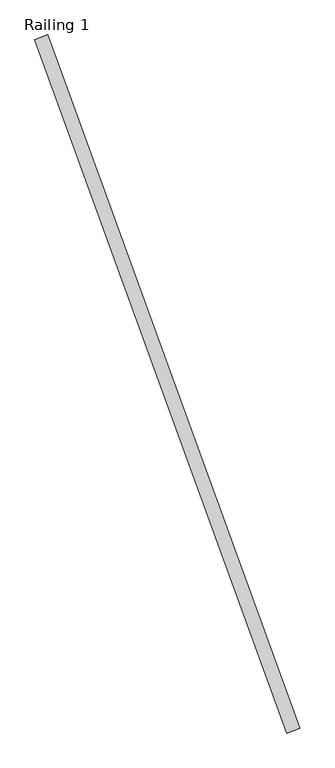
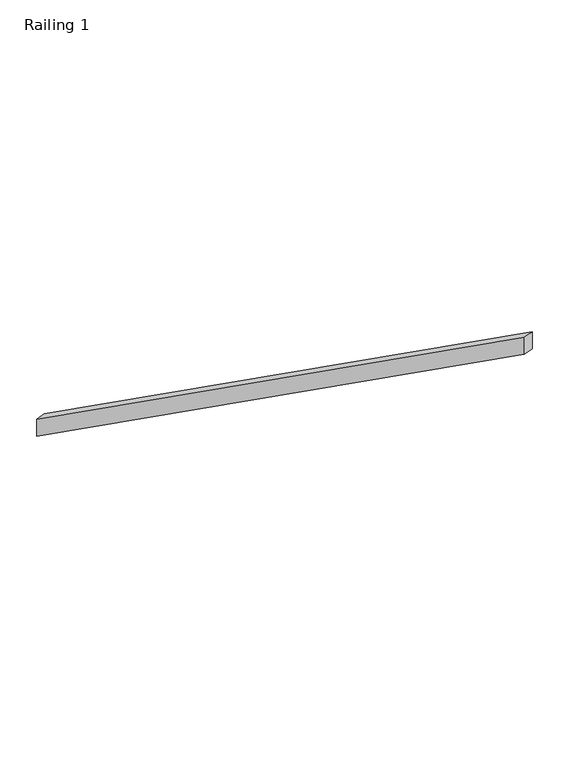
"""IFC4 building model written with IfcOpenShell, lengths in millimetres: railing geometry, Railing 1."""

from ifc_helpers import new_model, si_unit, frame, origin, place, context, project, spatial, polyline, outline, extrude, source, transform, mapped, element, save


def railing_1_8408d9b6(model_context):
    return source(origin(), model_context, "Body", "SweptSolid", [
        extrude(outline(polyline([(46.2741818, -76.2), (0.0, 0.0), (3217.3591655, 0.0), (3263.6333474, -76.2), (46.2741818, -76.2)])), frame((20032.689937, 27586.6778863, 3392.6680842), z_axis=(0.9396926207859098, 0.3420201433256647, 0.0), x_axis=(0.29233770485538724, -0.8031912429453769, 0.5190592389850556)), (0.0, 0.0, 1.0), 50.8),
    ])


if __name__ == "__main__":
    model = new_model("IFC4")
    model_context = context("Model", 3, world=origin())
    ifc_project = project(units=[si_unit("LENGTHUNIT", "METRE", prefix="MILLI")], contexts=[model_context])
    site = spatial("IfcSite", under=ifc_project)
    building = spatial("IfcBuilding", under=site)
    placement = place(None, origin())
    railing_1_shape = railing_1_8408d9b6(model_context)
    element("IfcRailing", 1, ObjectType="Railing 1", at=placement, inside=building, context=model_context, shape_type="MappedRepresentation", body=[
        mapped(railing_1_shape, transform((0.0, 0.0, 0.0), x_axis=(1.0, 0.0, 0.0), y_axis=(0.0, 1.0, 0.0), z_axis=(0.0, 0.0, 1.0))),
    ])
    save(model, "model.ifc")
